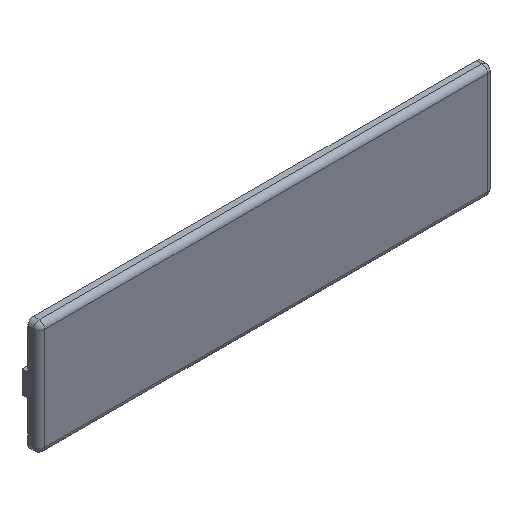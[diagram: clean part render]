
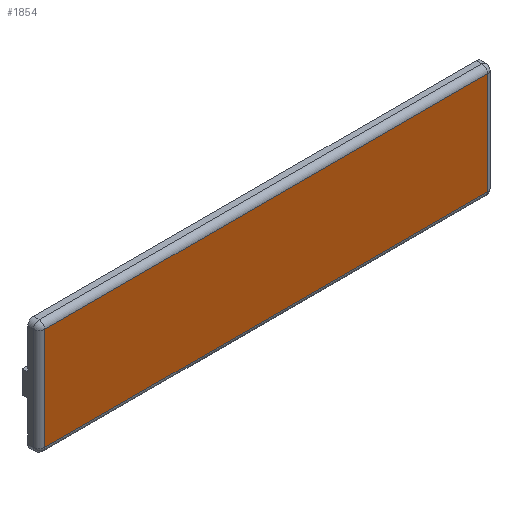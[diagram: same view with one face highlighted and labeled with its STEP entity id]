
A CAD part, isometric view. The second image highlights one B-rep face of the part: STEP entity #1854.
In plain terms, the highlighted planar face has unit normal (0, -1, 0).
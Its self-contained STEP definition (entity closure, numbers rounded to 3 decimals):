
#123 = DIRECTION ( 'NONE',  ( -1., 0., 0. ) ) ;
#206 = CARTESIAN_POINT ( 'NONE',  ( 129.448, 0., 25.812 ) ) ;
#222 = DIRECTION ( 'NONE',  ( 0., 1., 0. ) ) ;
#257 = LINE ( 'NONE', #1553, #2019 ) ;
#344 = VECTOR ( 'NONE', #2006, 1000. ) ;
#438 = ORIENTED_EDGE ( 'NONE', *, *, #678, .T. ) ;
#487 = EDGE_CURVE ( 'NONE', #927, #2109, #257, .T. ) ;
#629 = DIRECTION ( 'NONE',  ( 0., 0., 1. ) ) ;
#637 = CARTESIAN_POINT ( 'NONE',  ( -26.552, 0., 0. ) ) ;
#678 = EDGE_CURVE ( 'NONE', #1768, #1182, #1649, .T. ) ;
#715 = LINE ( 'NONE', #1992, #1111 ) ;
#891 = CARTESIAN_POINT ( 'NONE',  ( 129.448, 0., -10.188 ) ) ;
#912 = ORIENTED_EDGE ( 'NONE', *, *, #1248, .T. ) ;
#927 = VERTEX_POINT ( 'NONE', #206 ) ;
#989 = CARTESIAN_POINT ( 'NONE',  ( 0., 0., -10.188 ) ) ;
#1057 = VECTOR ( 'NONE', #1116, 1000. ) ;
#1111 = VECTOR ( 'NONE', #629, 1000. ) ;
#1116 = DIRECTION ( 'NONE',  ( 0., 0., -1. ) ) ;
#1182 = VERTEX_POINT ( 'NONE', #891 ) ;
#1248 = EDGE_CURVE ( 'NONE', #1182, #927, #715, .T. ) ;
#1308 = EDGE_CURVE ( 'NONE', #2109, #1768, #1513, .T. ) ;
#1334 = ORIENTED_EDGE ( 'NONE', *, *, #1308, .T. ) ;
#1370 = CARTESIAN_POINT ( 'NONE',  ( -26.552, 0., 25.812 ) ) ;
#1423 = DIRECTION ( 'NONE',  ( 0., 0., 1. ) ) ;
#1513 = LINE ( 'NONE', #637, #1057 ) ;
#1553 = CARTESIAN_POINT ( 'NONE',  ( 0., 0., 25.812 ) ) ;
#1580 = CARTESIAN_POINT ( 'NONE',  ( -26.552, 0., -10.188 ) ) ;
#1649 = LINE ( 'NONE', #989, #344 ) ;
#1765 = CARTESIAN_POINT ( 'NONE',  ( 0., 0., 0. ) ) ;
#1768 = VERTEX_POINT ( 'NONE', #1580 ) ;
#1854 = ADVANCED_FACE ( 'NONE', ( #2070 ), #2099, .F. ) ;
#1939 = AXIS2_PLACEMENT_3D ( 'NONE', #1765, #222, #1423 ) ;
#1992 = CARTESIAN_POINT ( 'NONE',  ( 129.448, 0., 0. ) ) ;
#2006 = DIRECTION ( 'NONE',  ( 1., 0., 0. ) ) ;
#2019 = VECTOR ( 'NONE', #123, 1000. ) ;
#2070 = FACE_OUTER_BOUND ( 'NONE', #2096, .T. ) ;
#2096 = EDGE_LOOP ( 'NONE', ( #912, #2159, #1334, #438 ) ) ;
#2099 = PLANE ( 'NONE',  #1939 ) ;
#2109 = VERTEX_POINT ( 'NONE', #1370 ) ;
#2159 = ORIENTED_EDGE ( 'NONE', *, *, #487, .T. ) ;
